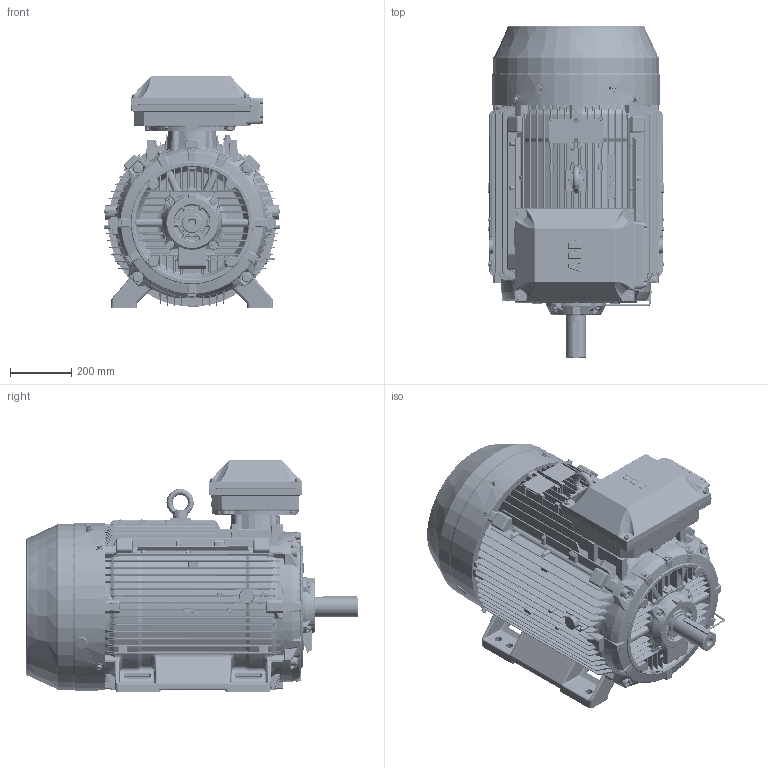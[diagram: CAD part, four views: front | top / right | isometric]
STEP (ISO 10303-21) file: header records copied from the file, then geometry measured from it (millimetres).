
FILE_DESCRIPTION(/* description */ (''),/* implementation_level */ '2;1');
FILE_NAME(/* name */ '3GZF500028-1571-STEP.stp',/* time_stamp */ '2019-01-08T09:07:49+02:00',/* author */ (''),/* organization */ (''),/* preprocessor_version */ 'ST-DEVELOPER v16',/* originating_system */ 'SIEMENS PLM Software NX 10.0',/* authorisation */ '');
FILE_SCHEMA (('AUTOMOTIVE_DESIGN { 1 0 10303 214 3 1 1 1 }'));
Products named in the file (1): FIRO395065FD03o8
Bounding box: 577 x 1085.5 x 762 mm (x, y, z)
Volume: 227533.3 mm3; surface area: 5163073.6 mm2
Topology: 65 solids, 67 shells, 6181 faces, 16119 edges, 9858 vertices
Faces by surface type: bspline 1992, plane 1683, cylinder 1353, cone 589, torus 457, sphere 106, extrusion 1
Full cylindrical faces by diameter (mm): 2.5 x8, 2.9 x4, 5 x1, 6 x4, 8 x2, 8.376 x2, 8.6 x1, 9.6 x2, 10 x7, 10.5 x3, 11 x2, 13 x2, 16 x20, 17 x5, 18.5 x2, 21 x1, 23 x1, 24 x10, 25 x6, 30 x8, 33 x4, 42 x2, 45 x1, 64.4 x1, 65 x1, 80 x1, 266 x1, 545 x1, 549 x1
Entity records: 361681 total; most frequent: CARTESIAN_POINT 232300, ORIENTED_EDGE 31062, DIRECTION 19147, EDGE_CURVE 15531, VERTEX_POINT 9769, AXIS2_PLACEMENT_3D 7513, B_SPLINE_CURVE_WITH_KNOTS 6937, EDGE_LOOP 6540
